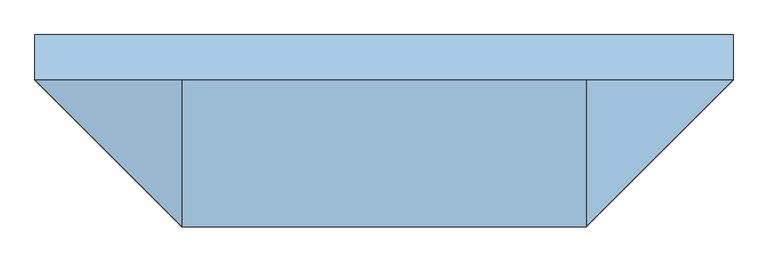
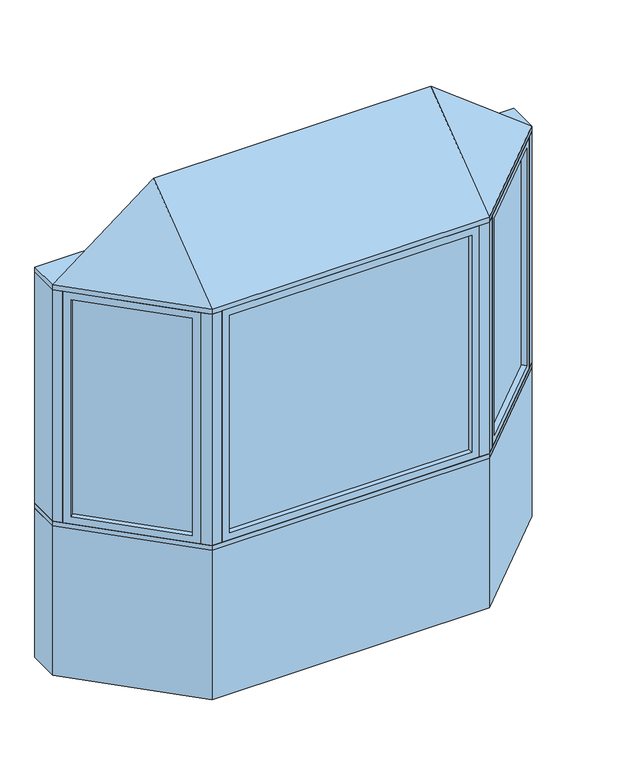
"""IFC4 building model written with IfcOpenShell, lengths in millimetres: window geometry, Pollard_Windows_Tudor Casement Bows and Bays : AML-BAY 45 AFR0612-12-600."""

from ifc_helpers import new_model, si_unit, frame, origin, origin_with_axes, place, context, project, spatial, polyline, outline, extrude, faceted_brep, source, transform, mapped, element, save


def window_dcdb2d5c(model_context):
    return source(origin(), model_context, "Body", "SolidModel", [
        extrude(outline(polyline([(1110.5964271, -104.763169), (714.974814, -500.3847822), (711.3827115, -496.7926797), (1107.0043247, -101.1710666), (1110.5964271, -104.763169)])), frame((0.0, 0.0, 823.1628), z_axis=(0.0, 0.0, 1.0), x_axis=(1.0, 0.0, 0.0)), (0.0, 0.0, 1.0), 1153.6704),
        faceted_brep([(1101.616171, -113.7434252, 835.8628), (1119.5766833, -131.7039374, 835.8628), (1119.5766833, -131.7039374, 1964.1332), (1101.616171, -113.7434252, 1964.1332), (1107.0043247, -101.1710666, 823.1628), (1110.5964271, -104.763169, 823.1628), (1110.5964271, -104.763169, 1976.8332), (1107.0043247, -101.1710666, 1976.8332), (1080.0635563, -92.1908105, 835.8628), (1098.0240686, -110.1513227, 835.8628), (1098.0240686, -110.1513227, 1964.1332), (1080.0635563, -92.1908105, 1964.1332), (1144.9369265, -106.3436941, 799.998), (1105.4237996, -66.8305672, 799.998), (1105.4237996, -66.8305672, 1999.998), (1144.9369265, -106.3436941, 1999.998), (741.9155823, -509.3650383, 1964.1332), (723.9550701, -491.4045261, 1964.1332), (714.974814, -500.3847822, 1976.8332), (711.3827115, -496.7926797, 1976.8332), (720.3629677, -487.8124236, 1964.1332), (702.4024554, -469.8519114, 1964.1332), (677.0422121, -495.2121547, 1999.998), (716.5553391, -534.7252816, 1999.998), (741.9155823, -509.3650383, 835.8628), (723.9550701, -491.4045261, 835.8628), (714.974814, -500.3847822, 823.1628), (711.3827115, -496.7926797, 823.1628), (720.3629677, -487.8124236, 835.8628), (702.4024554, -469.8519114, 835.8628), (677.0422121, -495.2121547, 799.998), (716.5553391, -534.7252816, 799.998)], [[[0, 1, 2, 3]], [[4, 5, 6, 7]], [[8, 9, 10, 11]], [[12, 13, 14, 15]], [[3, 2, 16, 17]], [[7, 6, 18, 19]], [[11, 10, 20, 21]], [[15, 14, 22, 23]], [[17, 16, 24, 25]], [[19, 18, 26, 27]], [[21, 20, 28, 29]], [[23, 22, 30, 31]], [[25, 24, 1, 0]], [[5, 26, 18, 6], [3, 17, 25, 0]], [[27, 26, 5, 4]], [[7, 19, 27, 4], [9, 28, 20, 10]], [[29, 28, 9, 8]], [[13, 30, 22, 14], [11, 21, 29, 8]], [[31, 30, 13, 12]], [[15, 23, 31, 12], [1, 24, 16, 2]]]),
        extrude(outline(polyline([(-714.974814, -500.3847822), (-1110.5964271, -104.763169), (-1107.0043247, -101.1710666), (-711.3827115, -496.7926797), (-714.974814, -500.3847822)])), frame((0.0, 0.0, 823.1628), z_axis=(0.0, 0.0, 1.0), x_axis=(1.0, 0.0, 0.0)), (0.0, 0.0, 1.0), 1153.6704),
        faceted_brep([(-720.3629677, -487.8124236, 1964.1332), (-702.4024554, -469.8519114, 1964.1332), (-702.4024554, -469.8519114, 835.8628), (-720.3629677, -487.8124236, 835.8628), (-714.974814, -500.3847822, 1976.8332), (-711.3827115, -496.7926797, 1976.8332), (-711.3827115, -496.7926797, 823.1628), (-714.974814, -500.3847822, 823.1628), (-741.9155823, -509.3650383, 1964.1332), (-723.9550701, -491.4045261, 1964.1332), (-723.9550701, -491.4045261, 835.8628), (-741.9155823, -509.3650383, 835.8628), (-677.0422121, -495.2121547, 1999.998), (-716.5553391, -534.7252816, 1999.998), (-716.5553391, -534.7252816, 799.998), (-677.0422121, -495.2121547, 799.998), (-1080.0635563, -92.1908105, 835.8628), (-1098.0240686, -110.1513227, 835.8628), (-1107.0043247, -101.1710666, 823.1628), (-1110.5964271, -104.763169, 823.1628), (-1101.616171, -113.7434252, 835.8628), (-1119.5766833, -131.7039374, 835.8628), (-1144.9369265, -106.3436941, 799.998), (-1105.4237996, -66.8305672, 799.998), (-1080.0635563, -92.1908105, 1964.1332), (-1098.0240686, -110.1513227, 1964.1332), (-1107.0043247, -101.1710666, 1976.8332), (-1110.5964271, -104.763169, 1976.8332), (-1101.616171, -113.7434252, 1964.1332), (-1119.5766833, -131.7039374, 1964.1332), (-1144.9369265, -106.3436941, 1999.998), (-1105.4237996, -66.8305672, 1999.998)], [[[0, 1, 2, 3]], [[4, 5, 6, 7]], [[8, 9, 10, 11]], [[12, 13, 14, 15]], [[3, 2, 16, 17]], [[7, 6, 18, 19]], [[11, 10, 20, 21]], [[15, 14, 22, 23]], [[17, 16, 24, 25]], [[19, 18, 26, 27]], [[21, 20, 28, 29]], [[23, 22, 30, 31]], [[15, 23, 31, 12], [1, 24, 16, 2]], [[25, 24, 1, 0]], [[5, 26, 18, 6], [3, 17, 25, 0]], [[27, 26, 5, 4]], [[7, 19, 27, 4], [9, 28, 20, 10]], [[29, 28, 9, 8]], [[13, 30, 22, 14], [11, 21, 29, 8]], [[31, 30, 13, 12]]]),
        extrude(outline(polyline([(608.0352, -544.6806207), (-608.0352, -544.6806207), (-608.0352, -539.6006207), (608.0352, -539.6006207), (608.0352, -544.6806207)])), frame((0.0, 0.0, 823.1628), z_axis=(0.0, 0.0, 1.0), x_axis=(1.0, 0.0, 0.0)), (0.0, 0.0, 1.0), 1153.6704),
        faceted_brep([(595.3352, -544.6806207, 835.8628), (595.3352, -570.0806207, 835.8628), (595.3352, -570.0806207, 1964.1332), (595.3352, -544.6806207, 1964.1332), (608.0352, -539.6006207, 823.1628), (608.0352, -544.6806207, 823.1628), (608.0352, -544.6806207, 1976.8332), (608.0352, -539.6006207, 1976.8332), (595.3352, -514.2006207, 835.8628), (595.3352, -539.6006207, 835.8628), (595.3352, -539.6006207, 1964.1332), (595.3352, -514.2006207, 1964.1332), (631.2, -570.0806207, 799.998), (631.2, -514.2006207, 799.998), (631.2, -514.2006207, 1999.998), (631.2, -570.0806207, 1999.998), (-595.3352, -570.0806207, 1964.1332), (-595.3352, -544.6806207, 1964.1332), (-608.0352, -544.6806207, 1976.8332), (-608.0352, -539.6006207, 1976.8332), (-595.3352, -539.6006207, 1964.1332), (-595.3352, -514.2006207, 1964.1332), (-631.2, -514.2006207, 1999.998), (-631.2, -570.0806207, 1999.998), (-595.3352, -570.0806207, 835.8628), (-595.3352, -544.6806207, 835.8628), (-608.0352, -544.6806207, 823.1628), (-608.0352, -539.6006207, 823.1628), (-595.3352, -539.6006207, 835.8628), (-595.3352, -514.2006207, 835.8628), (-631.2, -514.2006207, 799.998), (-631.2, -570.0806207, 799.998)], [[[0, 1, 2, 3]], [[4, 5, 6, 7]], [[8, 9, 10, 11]], [[12, 13, 14, 15]], [[3, 2, 16, 17]], [[7, 6, 18, 19]], [[11, 10, 20, 21]], [[15, 14, 22, 23]], [[17, 16, 24, 25]], [[19, 18, 26, 27]], [[21, 20, 28, 29]], [[23, 22, 30, 31]], [[15, 23, 31, 12], [1, 24, 16, 2]], [[25, 24, 1, 0]], [[5, 26, 18, 6], [3, 17, 25, 0]], [[27, 26, 5, 4]], [[7, 19, 27, 4], [9, 28, 20, 10]], [[29, 28, 9, 8]], [[13, 30, 22, 14], [11, 21, 29, 8]], [[31, 30, 13, 12]]]),
        faceted_brep([(1176.5, -74.7806207, 2025.398), (681.2, -570.0806207, 2025.398), (-681.2, -570.0806207, 2025.398), (-1176.5, -74.7806207, 2025.398), (-681.2, -74.7806207, 2406.398), (681.2, -74.7806207, 2406.398)], [[[0, 1, 2, 3]], [[3, 2, 4]], [[2, 1, 5, 4]], [[1, 0, 5]], [[0, 3, 4, 5]]]),
        extrude(outline(polyline([(-1176.5, 77.6193793), (1176.5, 77.6193793), (1176.5, -74.7806207), (681.2, -570.0806207), (-681.2, -570.0806207), (-1176.5, -74.7806207), (-1176.5, 77.6193793)])), frame((0.0, 0.0, 1999.998), z_axis=(0.0, 0.0, 1.0), x_axis=(1.0, 0.0, 0.0)), (0.0, 0.0, 1.0), 25.4),
        extrude(outline(polyline([(-1176.5, -74.7806207), (-1176.5, 77.6193793), (-1113.3738531, 77.6193793), (-1113.3738531, -74.7806207), (-1144.9369265, -106.3436941), (-1176.5, -74.7806207)])), frame((0.0, 0.0, 799.998), z_axis=(0.0, 0.0, 1.0), x_axis=(1.0, 0.0, 0.0)), (0.0, 0.0, 1.0), 1200.0),
        extrude(outline(polyline([(1176.5, 77.6193793), (1176.5, -74.7806207), (1144.9369265, -106.3436941), (1113.3738531, -74.7806207), (1113.3738531, 77.6193793), (1176.5, 77.6193793)])), frame((0.0, 0.0, 799.998), z_axis=(0.0, 0.0, 1.0), x_axis=(1.0, 0.0, 0.0)), (0.0, 0.0, 1.0), 1200.0),
        extrude(outline(polyline([(681.2, -570.0806207), (631.2, -570.0806207), (631.2, -520.0806207), (660.4893219, -520.0806207), (681.2, -499.3699425), (716.5553391, -534.7252816), (681.2, -570.0806207)])), frame((0.0, 0.0, 799.998), z_axis=(0.0, 0.0, 1.0), x_axis=(1.0, 0.0, 0.0)), (0.0, 0.0, 1.0), 1200.0),
        extrude(outline(polyline([(-681.2, -570.0806207), (-716.5553391, -534.7252816), (-681.2, -499.3699425), (-660.4893219, -520.0806207), (-631.2, -520.0806207), (-631.2, -570.0806207), (-681.2, -570.0806207)])), frame((0.0, 0.0, 799.998), z_axis=(0.0, 0.0, 1.0), x_axis=(1.0, 0.0, 0.0)), (0.0, 0.0, 1.0), 1200.0),
        extrude(outline(polyline([(-681.2, -570.0806207), (-1176.5, -74.7806207), (-1176.5, 77.6193793), (-1113.3738531, 77.6193793), (-618.0738531, -417.6806207), (618.0738531, -417.6806207), (1113.3738531, 77.6193793), (1176.5, 77.6193793), (1176.5, -74.7806207), (681.2, -570.0806207), (-681.2, -570.0806207)])), frame((0.0, 0.0, 774.598), z_axis=(0.0, 0.0, 1.0), x_axis=(1.0, 0.0, 0.0)), (0.0, 0.0, 1.0), 25.4),
        extrude(outline(polyline([(-1176.5, -74.7806207), (-1176.5, 77.6193793), (-1113.3738531, 77.6193793), (-618.0738531, -417.6806207), (618.0738531, -417.6806207), (1113.3738531, 77.6193793), (1176.5, 77.6193793), (1176.5, -74.7806207), (681.2, -570.0806207), (-681.2, -570.0806207), (-1176.5, -74.7806207)])), origin_with_axes(), (0.0, 0.0, 1.0), 774.598),
    ])


if __name__ == "__main__":
    model = new_model("IFC4")
    model_context = context("Model", 3, world=origin())
    ifc_project = project(units=[si_unit("LENGTHUNIT", "METRE", prefix="MILLI")], contexts=[model_context])
    site = spatial("IfcSite", under=ifc_project)
    building = spatial("IfcBuilding", under=site)
    placement = place(None, origin())
    window_shape = window_dcdb2d5c(model_context)
    element("IfcWindow", 1, ObjectType="Pollard_Windows_Tudor Casement Bows and Bays : AML-BAY 45 AFR0612-12-600", at=placement, inside=building, context=model_context, shape_type="MappedRepresentation", body=[
        mapped(window_shape, transform((0.0, 0.0, 0.0), x_axis=(1.0, 0.0, 0.0), y_axis=(0.0, 1.0, 0.0), z_axis=(0.0, 0.0, 1.0))),
    ])
    save(model, "model.ifc")
